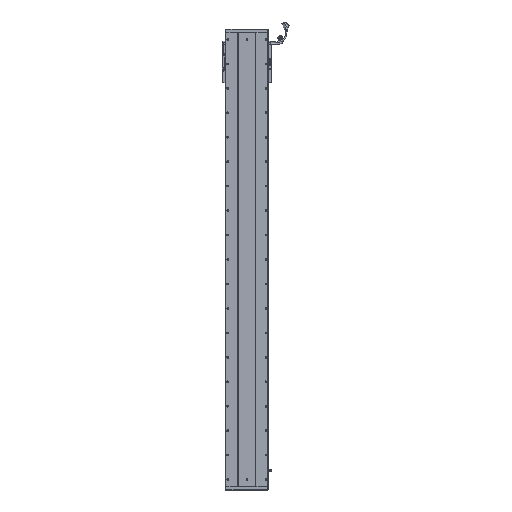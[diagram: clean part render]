
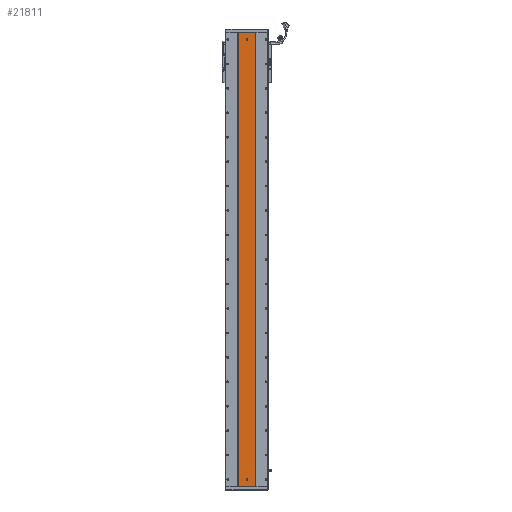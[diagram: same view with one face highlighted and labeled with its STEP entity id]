
A CAD part, front view. The second image highlights one B-rep face of the part: STEP entity #21811.
In plain terms, the highlighted planar face has unit normal (0, -1, 0).
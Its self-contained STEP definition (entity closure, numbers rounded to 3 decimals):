
#393 = ORIENTED_EDGE ( 'NONE', *, *, #20953, .F. ) ;
#1104 = AXIS2_PLACEMENT_3D ( 'NONE', #95186, #44853, #105210 ) ;
#1149 = DIRECTION ( 'NONE',  ( 0., -1., 0. ) ) ;
#3448 = EDGE_LOOP ( 'NONE', ( #393, #16749, #97259, #68170, #50392 ) ) ;
#4105 = CIRCLE ( 'NONE', #1104, 3. ) ;
#6150 = CARTESIAN_POINT ( 'NONE',  ( 3280.529, 1415.701, 27. ) ) ;
#6174 = LINE ( 'NONE', #74135, #52995 ) ;
#7633 = DIRECTION ( 'NONE',  ( 0., -1., 0. ) ) ;
#8189 = CIRCLE ( 'NONE', #65266, 3. ) ;
#8778 = CARTESIAN_POINT ( 'NONE',  ( 3316.311, 1415.701, 1857. ) ) ;
#9874 = LINE ( 'NONE', #17018, #12565 ) ;
#11856 = CARTESIAN_POINT ( 'NONE',  ( 3316.311, 1415.701, 1857. ) ) ;
#12565 = VECTOR ( 'NONE', #50680, 1000. ) ;
#12677 = DIRECTION ( 'NONE',  ( 0., 0., 1. ) ) ;
#13337 = DIRECTION ( 'NONE',  ( 0., 0., -1. ) ) ;
#13375 = EDGE_CURVE ( 'NONE', #91885, #109150, #4105, .T. ) ;
#15086 = CARTESIAN_POINT ( 'NONE',  ( 3283.529, 1415.701, 27. ) ) ;
#16749 = ORIENTED_EDGE ( 'NONE', *, *, #21265, .F. ) ;
#16831 = CARTESIAN_POINT ( 'NONE',  ( 3244.748, 1415.701, 0. ) ) ;
#17018 = CARTESIAN_POINT ( 'NONE',  ( 3244.748, 1415.701, 1857. ) ) ;
#17267 = AXIS2_PLACEMENT_3D ( 'NONE', #6150, #7633, #32294 ) ;
#17828 = ORIENTED_EDGE ( 'NONE', *, *, #105730, .T. ) ;
#18408 = FACE_OUTER_BOUND ( 'NONE', #93250, .T. ) ;
#19015 = PLANE ( 'NONE',  #68958 ) ;
#19310 = VERTEX_POINT ( 'NONE', #83449 ) ;
#20181 = EDGE_CURVE ( 'NONE', #63236, #106792, #100535, .T. ) ;
#20953 = EDGE_CURVE ( 'NONE', #104584, #97171, #21275, .T. ) ;
#21265 = EDGE_CURVE ( 'NONE', #54881, #104584, #52022, .T. ) ;
#21275 = CIRCLE ( 'NONE', #17267, 3. ) ;
#21811 = ADVANCED_FACE ( 'NONE', ( #85453, #43846, #18408 ), #19015, .F. ) ;
#22160 = CARTESIAN_POINT ( 'NONE',  ( 3280.529, 1415.701, 27. ) ) ;
#24278 = EDGE_CURVE ( 'NONE', #19310, #110291, #9874, .T. ) ;
#24680 = CARTESIAN_POINT ( 'NONE',  ( 3316.311, 1415.701, 0. ) ) ;
#26673 = DIRECTION ( 'NONE',  ( 0., 0., -1. ) ) ;
#27611 = CARTESIAN_POINT ( 'NONE',  ( 3244.748, 1415.701, 1857. ) ) ;
#29425 = CARTESIAN_POINT ( 'NONE',  ( 3277.529, 1415.701, 27. ) ) ;
#30802 = VECTOR ( 'NONE', #107051, 1000. ) ;
#32294 = DIRECTION ( 'NONE',  ( 0., 0., -1. ) ) ;
#33189 = VECTOR ( 'NONE', #13337, 1000. ) ;
#33643 = DIRECTION ( 'NONE',  ( 1., 0., 0. ) ) ;
#33718 = ORIENTED_EDGE ( 'NONE', *, *, #80731, .T. ) ;
#34872 = EDGE_CURVE ( 'NONE', #109150, #91885, #81740, .T. ) ;
#41163 = EDGE_CURVE ( 'NONE', #106792, #54881, #8189, .T. ) ;
#41773 = VECTOR ( 'NONE', #33643, 1000. ) ;
#42687 = EDGE_CURVE ( 'NONE', #97171, #63236, #85646, .T. ) ;
#43846 = FACE_BOUND ( 'NONE', #84153, .T. ) ;
#44853 = DIRECTION ( 'NONE',  ( 0., -1., 0. ) ) ;
#46519 = DIRECTION ( 'NONE',  ( 0., -1., 0. ) ) ;
#46733 = CARTESIAN_POINT ( 'NONE',  ( 3283.529, 1415.701, 30. ) ) ;
#47209 = ORIENTED_EDGE ( 'NONE', *, *, #75313, .F. ) ;
#47380 = AXIS2_PLACEMENT_3D ( 'NONE', #22160, #46519, #72744 ) ;
#48595 = DIRECTION ( 'NONE',  ( 0., -1., 0. ) ) ;
#50392 = ORIENTED_EDGE ( 'NONE', *, *, #42687, .F. ) ;
#50666 = CARTESIAN_POINT ( 'NONE',  ( 3244.748, 1415.701, 0. ) ) ;
#50680 = DIRECTION ( 'NONE',  ( 1., 0., 0. ) ) ;
#51922 = LINE ( 'NONE', #11856, #33189 ) ;
#52022 = LINE ( 'NONE', #61872, #80167 ) ;
#52995 = VECTOR ( 'NONE', #57248, 1000. ) ;
#54881 = VERTEX_POINT ( 'NONE', #93428 ) ;
#55889 = VERTEX_POINT ( 'NONE', #50666 ) ;
#57248 = DIRECTION ( 'NONE',  ( 0., 0., -1. ) ) ;
#61872 = CARTESIAN_POINT ( 'NONE',  ( 3277.529, 1415.701, 30. ) ) ;
#63236 = VERTEX_POINT ( 'NONE', #15086 ) ;
#65266 = AXIS2_PLACEMENT_3D ( 'NONE', #103405, #1149, #104858 ) ;
#68170 = ORIENTED_EDGE ( 'NONE', *, *, #20181, .F. ) ;
#68958 = AXIS2_PLACEMENT_3D ( 'NONE', #27611, #87618, #12677 ) ;
#72744 = DIRECTION ( 'NONE',  ( 0., 0., -1. ) ) ;
#74135 = CARTESIAN_POINT ( 'NONE',  ( 3244.748, 1415.701, 1857. ) ) ;
#75313 = EDGE_CURVE ( 'NONE', #110291, #86270, #51922, .T. ) ;
#76451 = ORIENTED_EDGE ( 'NONE', *, *, #34872, .F. ) ;
#80167 = VECTOR ( 'NONE', #26673, 1000. ) ;
#80731 = EDGE_CURVE ( 'NONE', #55889, #86270, #91524, .T. ) ;
#81378 = AXIS2_PLACEMENT_3D ( 'NONE', #83821, #48595, #108554 ) ;
#81740 = CIRCLE ( 'NONE', #81378, 3. ) ;
#81914 = CARTESIAN_POINT ( 'NONE',  ( 3283.529, 1415.701, 30. ) ) ;
#81926 = CARTESIAN_POINT ( 'NONE',  ( 3280.529, 1415.701, 1831.5 ) ) ;
#83449 = CARTESIAN_POINT ( 'NONE',  ( 3244.748, 1415.701, 1857. ) ) ;
#83821 = CARTESIAN_POINT ( 'NONE',  ( 3280.529, 1415.701, 1828.5 ) ) ;
#84153 = EDGE_LOOP ( 'NONE', ( #76451, #86148 ) ) ;
#85453 = FACE_BOUND ( 'NONE', #3448, .T. ) ;
#85646 = CIRCLE ( 'NONE', #47380, 3. ) ;
#86148 = ORIENTED_EDGE ( 'NONE', *, *, #13375, .F. ) ;
#86270 = VERTEX_POINT ( 'NONE', #24680 ) ;
#87618 = DIRECTION ( 'NONE',  ( 0., 1., 0. ) ) ;
#90312 = ORIENTED_EDGE ( 'NONE', *, *, #24278, .F. ) ;
#91524 = LINE ( 'NONE', #16831, #41773 ) ;
#91885 = VERTEX_POINT ( 'NONE', #81926 ) ;
#93250 = EDGE_LOOP ( 'NONE', ( #33718, #47209, #90312, #17828 ) ) ;
#93428 = CARTESIAN_POINT ( 'NONE',  ( 3277.529, 1415.701, 30. ) ) ;
#94181 = CARTESIAN_POINT ( 'NONE',  ( 3280.529, 1415.701, 1825.5 ) ) ;
#95186 = CARTESIAN_POINT ( 'NONE',  ( 3280.529, 1415.701, 1828.5 ) ) ;
#97171 = VERTEX_POINT ( 'NONE', #102489 ) ;
#97259 = ORIENTED_EDGE ( 'NONE', *, *, #41163, .F. ) ;
#100535 = LINE ( 'NONE', #46733, #30802 ) ;
#102489 = CARTESIAN_POINT ( 'NONE',  ( 3280.529, 1415.701, 24. ) ) ;
#103405 = CARTESIAN_POINT ( 'NONE',  ( 3280.529, 1415.701, 30. ) ) ;
#104584 = VERTEX_POINT ( 'NONE', #29425 ) ;
#104858 = DIRECTION ( 'NONE',  ( 0., 0., -1. ) ) ;
#105210 = DIRECTION ( 'NONE',  ( 0., 0., -1. ) ) ;
#105730 = EDGE_CURVE ( 'NONE', #19310, #55889, #6174, .T. ) ;
#106792 = VERTEX_POINT ( 'NONE', #81914 ) ;
#107051 = DIRECTION ( 'NONE',  ( 0., 0., 1. ) ) ;
#108554 = DIRECTION ( 'NONE',  ( 0., 0., -1. ) ) ;
#109150 = VERTEX_POINT ( 'NONE', #94181 ) ;
#110291 = VERTEX_POINT ( 'NONE', #8778 ) ;
